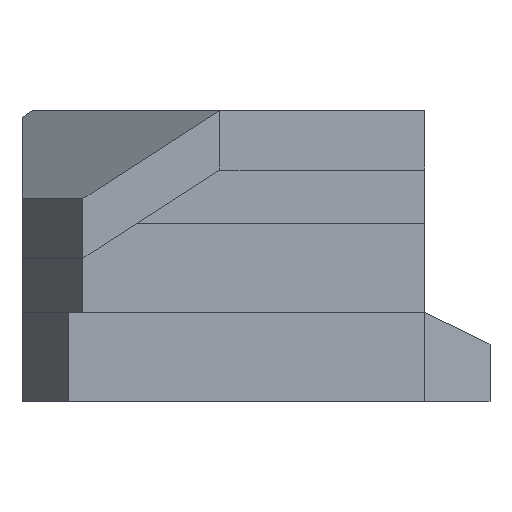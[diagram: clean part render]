
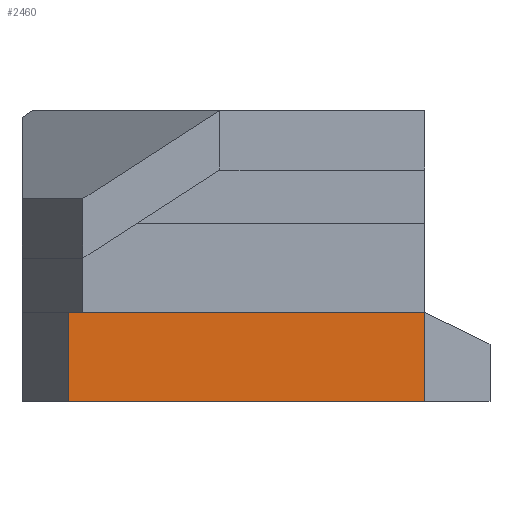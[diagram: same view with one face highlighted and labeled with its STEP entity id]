
A CAD part, left-side view. The second image highlights one B-rep face of the part: STEP entity #2460.
In plain terms, the highlighted planar face has unit normal (-1, 0, 0).
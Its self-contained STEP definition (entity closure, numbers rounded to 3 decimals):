
#794=DIRECTION('',(0.,-1.,0.));
#795=VECTOR('',#794,12.);
#796=CARTESIAN_POINT('',(-49.307,16.5,0.));
#797=LINE('',#796,#795);
#798=DIRECTION('',(0.,1.,0.));
#799=VECTOR('',#798,12.);
#800=CARTESIAN_POINT('',(-49.307,4.5,3.));
#801=LINE('',#800,#799);
#802=DIRECTION('',(0.,0.,1.));
#803=VECTOR('',#802,3.);
#804=CARTESIAN_POINT('',(-49.307,4.5,0.));
#805=LINE('',#804,#803);
#806=DIRECTION('',(0.,0.,1.));
#807=VECTOR('',#806,3.);
#808=CARTESIAN_POINT('',(-49.307,16.5,0.));
#809=LINE('',#808,#807);
#1090=CARTESIAN_POINT('',(-49.307,16.5,0.));
#1091=CARTESIAN_POINT('',(-49.307,4.5,0.));
#1092=VERTEX_POINT('',#1090);
#1093=VERTEX_POINT('',#1091);
#1170=CARTESIAN_POINT('',(-49.307,16.5,3.));
#1171=VERTEX_POINT('',#1170);
#1173=CARTESIAN_POINT('',(-49.307,4.5,3.));
#1175=VERTEX_POINT('',#1173);
#2448=CARTESIAN_POINT('',(-49.307,17.832,
-0.432));
#2449=DIRECTION('',(-1.,0.,0.));
#2450=DIRECTION('',(0.,1.,0.));
#2451=AXIS2_PLACEMENT_3D('',#2448,#2449,#2450);
#2452=PLANE('',#2451);
#2453=ORIENTED_EDGE('',*,*,#1451,.F.);
#2455=ORIENTED_EDGE('',*,*,#2454,.T.);
#2456=ORIENTED_EDGE('',*,*,#1550,.F.);
#2457=ORIENTED_EDGE('',*,*,#2443,.F.);
#2458=EDGE_LOOP('',(#2453,#2455,#2456,#2457));
#2459=FACE_OUTER_BOUND('',#2458,.F.);
#1451=EDGE_CURVE('',#1092,#1093,#797,.T.);
#1550=EDGE_CURVE('',#1175,#1171,#801,.T.);
#2443=EDGE_CURVE('',#1093,#1175,#805,.T.);
#2454=EDGE_CURVE('',#1092,#1171,#809,.T.);
#2460=ADVANCED_FACE('',(#2459),#2452,.T.);
